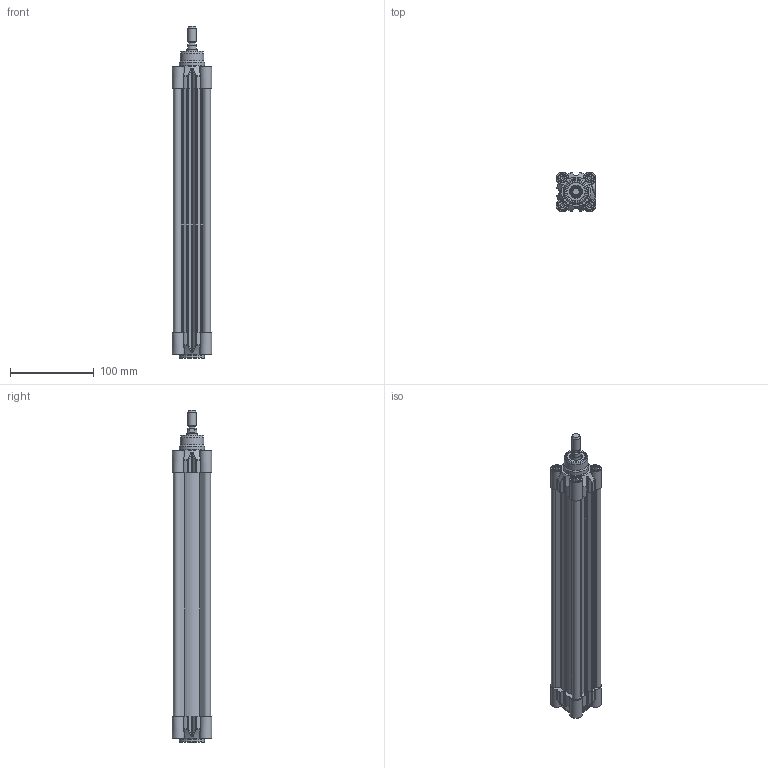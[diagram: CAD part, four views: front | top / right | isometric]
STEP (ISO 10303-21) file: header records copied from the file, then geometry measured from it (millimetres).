
FILE_DESCRIPTION(/* description */ ('CILINDRO D.E. MAGNETICO AMMORTIZZATO ISO 15552'),/* implementation_level */ '2;1');
FILE_NAME(/* name */ 'T:\Archivio Inventor\- 00 NUOVI STP PER SITO CON STELO CHE SI MUOVE\SERIE H - U\SERIE HDM\HDM032-TUBO NUOVO\HDM032.250.GS.M.stp',/* time_stamp */ '2018-07-25T14:27:25+02:00',/* author */ ('carlo.corazza'),/* organization */ (''),/* preprocessor_version */ 'ST-DEVELOPER v16.5',/* originating_system */ 'Autodesk Inventor 2017',/* authorisation */ '');
FILE_SCHEMA (('AUTOMOTIVE_DESIGN { 1 0 10303 214 3 1 1 }'));
Length unit declared in the file: millimetre
Products named in the file (5): HDM032.250.GS.M; TP; STELO-250; TA; CORPO-250
Assembly tree (4 placements, depth 2):
  HDM032.250.GS.M
    TP
    STELO-250
    TA
    CORPO-250
Bounding box: 47 x 47 x 396 mm (x, y, z)
Volume: 278264.3 mm3; surface area: 193195 mm2
Topology: 4 solids, 18 shells, 969 faces, 2356 edges, 1494 vertices
Faces by surface type: plane 330, cylinder 260, bspline 190, cone 86, torus 83, sphere 20
Full cylindrical faces by diameter (mm): 2 x2, 2.1 x2, 4 x2, 4.5 x2, 4.917 x8, 6 x8, 6.2 x8, 6.3 x4, 7 x2, 7.8 x4, 7.9 x3, 8 x4, 8.566 x2, 10 x9, 10.3 x8, 11.6 x1, 12 x1, 12.8 x1, 12.847 x1, 16 x1, 17 x2, 22 x3, 28 x1, 30 x2, 32 x1
Entity records: 31186 total; most frequent: CARTESIAN_POINT 9171, ORIENTED_EDGE 4162, DIRECTION 4048, EDGE_CURVE 2081, AXIS2_PLACEMENT_3D 1569, VERTEX_POINT 1436, EDGE_LOOP 1302, FACE_OUTER_BOUND 969
